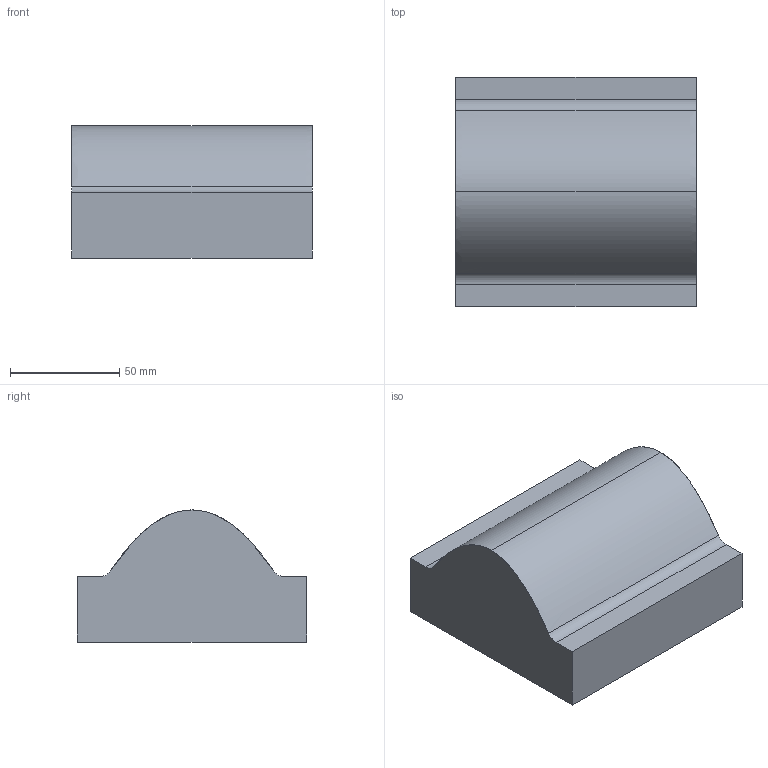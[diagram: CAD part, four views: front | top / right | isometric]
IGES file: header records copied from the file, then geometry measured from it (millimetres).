
Start section: START RECORD GO HERE.
Global section: file name: Param raznik.igs; native system: IBM CATIA IGES - CATIA Version 5 Release 19 ; preprocessor: CATIA Version 5 Release 19 ; author: jcerki; organization: JCERKI-HOME; date: 20100611.120109; units: millimetre
Bounding box: 110 x 105 x 60.5 mm (x, y, z)
Surface area: 41818.4 mm2 (no closed solid volume)
Topology: 0 solids, 0 shells, 12 faces, 60 edges, 60 vertices
Faces by surface type: plane 8, revolution 2, extrusion 2
